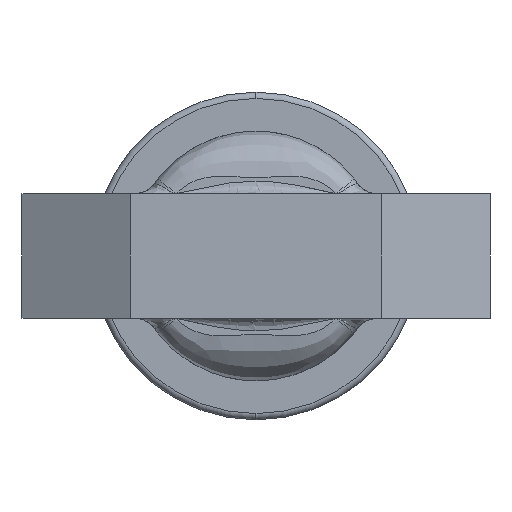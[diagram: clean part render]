
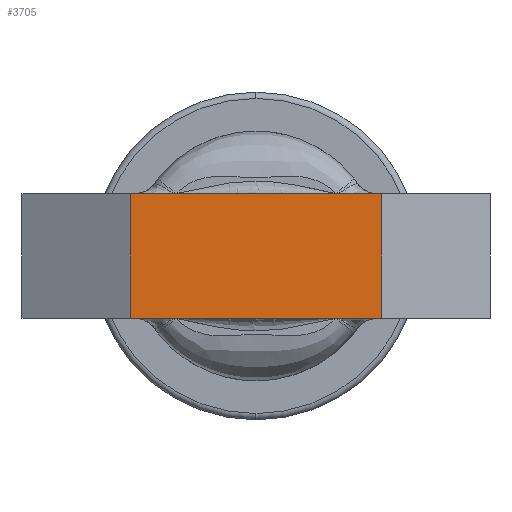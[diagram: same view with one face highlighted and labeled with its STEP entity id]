
A CAD part, front view. The second image highlights one B-rep face of the part: STEP entity #3705.
In plain terms, the highlighted planar face has unit normal (0, -1, 0).
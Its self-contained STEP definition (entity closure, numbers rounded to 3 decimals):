
#33 = EDGE_CURVE ( 'NONE', #1977, #2799, #1320, .T. ) ;
#386 = CARTESIAN_POINT ( 'NONE',  ( -8.072, -85., 4. ) ) ;
#397 = CARTESIAN_POINT ( 'NONE',  ( -15., -85., 4. ) ) ;
#467 = ORIENTED_EDGE ( 'NONE', *, *, #821, .T. ) ;
#514 = CARTESIAN_POINT ( 'NONE',  ( -15., -85., 4. ) ) ;
#821 = EDGE_CURVE ( 'NONE', #3426, #2799, #2974, .T. ) ;
#1039 = VECTOR ( 'NONE', #4418, 1000. ) ;
#1103 = ORIENTED_EDGE ( 'NONE', *, *, #2631, .T. ) ;
#1320 = LINE ( 'NONE', #514, #2112 ) ;
#1403 = CARTESIAN_POINT ( 'NONE',  ( 8.072, -85., 4. ) ) ;
#1446 = DIRECTION ( 'NONE',  ( 0., 1., 0. ) ) ;
#1607 = DIRECTION ( 'NONE',  ( 1., 0., 0. ) ) ;
#1817 = ORIENTED_EDGE ( 'NONE', *, *, #4053, .T. ) ;
#1977 = VERTEX_POINT ( 'NONE', #386 ) ;
#2112 = VECTOR ( 'NONE', #4214, 1000. ) ;
#2179 = VERTEX_POINT ( 'NONE', #3221 ) ;
#2438 = CARTESIAN_POINT ( 'NONE',  ( 8.072, -85., -4. ) ) ;
#2631 = EDGE_CURVE ( 'NONE', #1977, #2179, #3992, .T. ) ;
#2799 = VERTEX_POINT ( 'NONE', #1403 ) ;
#2929 = FACE_OUTER_BOUND ( 'NONE', #4116, .T. ) ;
#2974 = LINE ( 'NONE', #4082, #1039 ) ;
#3042 = AXIS2_PLACEMENT_3D ( 'NONE', #397, #1446, #3838 ) ;
#3181 = VECTOR ( 'NONE', #4250, 1000. ) ;
#3221 = CARTESIAN_POINT ( 'NONE',  ( -8.072, -85., -4. ) ) ;
#3414 = VECTOR ( 'NONE', #1607, 1000. ) ;
#3426 = VERTEX_POINT ( 'NONE', #2438 ) ;
#3490 = PLANE ( 'NONE',  #3042 ) ;
#3568 = CARTESIAN_POINT ( 'NONE',  ( -8.072, -85., 4. ) ) ;
#3656 = CARTESIAN_POINT ( 'NONE',  ( -15., -85., -4. ) ) ;
#3705 = ADVANCED_FACE ( 'NONE', ( #2929 ), #3490, .F. ) ;
#3838 = DIRECTION ( 'NONE',  ( 0., 0., 1. ) ) ;
#3956 = ORIENTED_EDGE ( 'NONE', *, *, #33, .F. ) ;
#3992 = LINE ( 'NONE', #3568, #3181 ) ;
#4053 = EDGE_CURVE ( 'NONE', #2179, #3426, #4110, .T. ) ;
#4082 = CARTESIAN_POINT ( 'NONE',  ( 8.072, -85., 4. ) ) ;
#4110 = LINE ( 'NONE', #3656, #3414 ) ;
#4116 = EDGE_LOOP ( 'NONE', ( #3956, #1103, #1817, #467 ) ) ;
#4214 = DIRECTION ( 'NONE',  ( 1., 0., 0. ) ) ;
#4250 = DIRECTION ( 'NONE',  ( 0., 0., -1. ) ) ;
#4418 = DIRECTION ( 'NONE',  ( 0., 0., 1. ) ) ;
